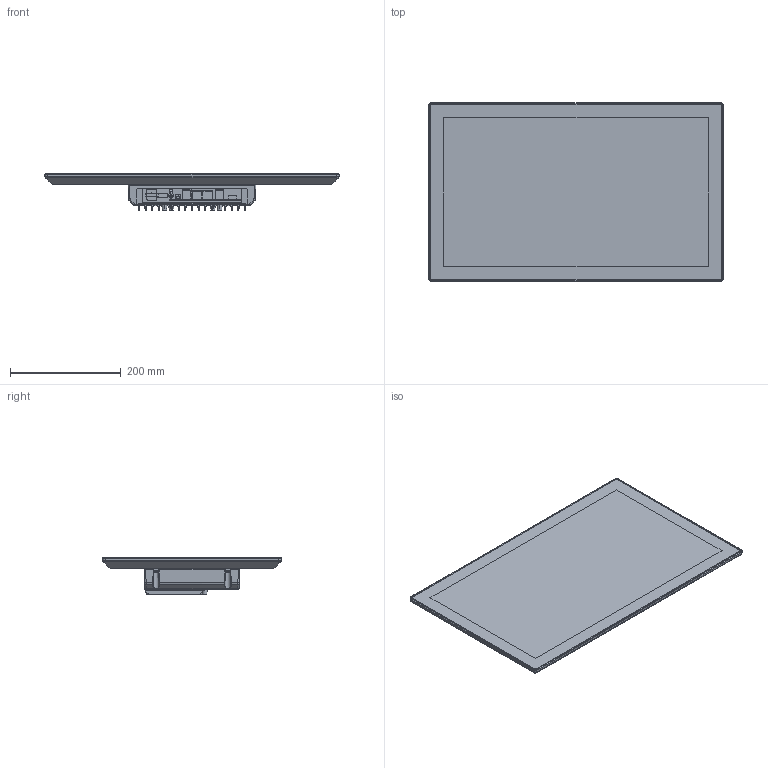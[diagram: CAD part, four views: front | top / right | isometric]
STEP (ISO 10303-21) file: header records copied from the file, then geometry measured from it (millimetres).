
FILE_DESCRIPTION (( 'STEP AP214' ), '1' );
FILE_NAME ('TP2120 (01-237-2120) Export20260225.STEP', '2026-02-25T14:06:31', ( '' ), ( '' ), 'SwSTEP 2.0', 'SolidWorks 2024', '' );
FILE_SCHEMA (( 'AUTOMOTIVE_DESIGN' ));
Length unit declared in the file: millimetre
Products named in the file (1): TP2120 (01-237-2120) Export20260225
Bounding box: 532.09 x 323.56 x 65.8 mm (x, y, z)
Volume: 4302962.5 mm3; surface area: 907845.4 mm2
Topology: 23 solids, 23 shells, 1675 faces, 3969 edges, 2296 vertices
Faces by surface type: cylinder 545, plane 455, bspline 354, torus 171, cone 138, sphere 12
Entity records: 83988 total; most frequent: CARTESIAN_POINT 30782, ORIENTED_EDGE 7798, DIRECTION 6869, EDGE_CURVE 3899, AXIS2_PLACEMENT_3D 2600, VERTEX_POINT 2296, EDGE_LOOP 1755, ADVANCED_FACE 1675
